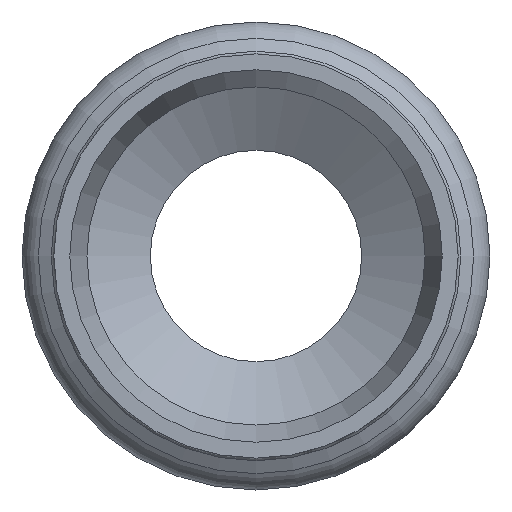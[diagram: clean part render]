
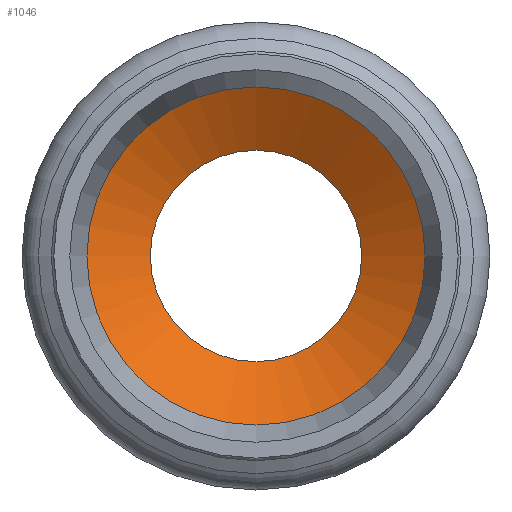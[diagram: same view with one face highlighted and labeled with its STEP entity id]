
A CAD part, left-side view. The second image highlights one B-rep face of the part: STEP entity #1046.
In plain terms, the highlighted free-form (B-spline) face has degree [1, 2] with [2, 9] control points.
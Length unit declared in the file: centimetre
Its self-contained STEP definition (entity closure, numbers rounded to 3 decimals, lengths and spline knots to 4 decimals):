
#773=CARTESIAN_POINT('',(-10.0,0.,-18.5359));
#774=VERTEX_POINT('',#773);
#775=CARTESIAN_POINT('',(0.0,0.0,-18.5359));
#776=DIRECTION('',(0.0,0.0,1.0));
#777=DIRECTION('',(1.0,0.0,0.0));
#778=AXIS2_PLACEMENT_3D('',#775,#776,#777);
#779=CIRCLE('',#778,10.0);
#780=EDGE_CURVE('',#774,#774,#779,.T.);
#1006=CARTESIAN_POINT('',(16.,0.,-22.0));
#1007=CARTESIAN_POINT('',(10.,0.,-18.5359));
#1008=CARTESIAN_POINT('',(16.,-16.,-22.0));
#1009=CARTESIAN_POINT('',(10.,-10.,-18.5359));
#1010=CARTESIAN_POINT('',(0.,-16.,-22.0));
#1011=CARTESIAN_POINT('',(0.,-10.,-18.5359));
#1012=CARTESIAN_POINT('',(-16.,-16.,-22.0));
#1013=CARTESIAN_POINT('',(-10.,-10.,-18.5359));
#1014=CARTESIAN_POINT('',(-16.,0.,-22.0));
#1015=CARTESIAN_POINT('',(-10.,0.,-18.5359));
#1016=CARTESIAN_POINT('',(-16.,16.,-22.0));
#1017=CARTESIAN_POINT('',(-10.,10.,-18.5359));
#1018=CARTESIAN_POINT('',(0.,16.,-22.0));
#1019=CARTESIAN_POINT('',(0.,10.,-18.5359));
#1020=CARTESIAN_POINT('',(16.,16.,-22.0));
#1021=CARTESIAN_POINT('',(10.,10.,-18.5359));
#1022=CARTESIAN_POINT('',(16.,0.,-22.0));
#1023=CARTESIAN_POINT('',(10.,0.,-18.5359));
#1031=(BOUNDED_SURFACE()B_SPLINE_SURFACE(1,2,((#1006,#1008,#1010,#1012,#1014,#1016,#1018,#1020,#1022),(#1007,#1009,#1011,#1013,#1015,#1017,#1019,#1021,#1023)),.UNSPECIFIED.,.F.,.T.,.U.)B_SPLINE_SURFACE_WITH_KNOTS((2,2),(3,2,2,2,3),(-1.1547,-0.2887),(0.0,12.5664,25.1327,37.6991,50.2655),.UNSPECIFIED.)GEOMETRIC_REPRESENTATION_ITEM()RATIONAL_B_SPLINE_SURFACE(((1.0,0.707,1.0,0.707,1.0,0.707,1.0,0.707,1.0),(1.0,0.707,1.0,0.707,1.0,0.707,1.0,0.707,1.0)))REPRESENTATION_ITEM('')SURFACE());
#1032=ORIENTED_EDGE('',*,*,#780,.T.);
#1033=EDGE_LOOP('',(#1032));
#1034=FACE_OUTER_BOUND('',#1033,.T.);
#1035=CARTESIAN_POINT('',(-16.0,0.0,-22.0));
#1036=VERTEX_POINT('',#1035);
#1037=CARTESIAN_POINT('',(0.0,0.0,-22.0));
#1038=DIRECTION('',(0.0,0.0,-1.0));
#1039=DIRECTION('',(-1.0,0.0,0.0));
#1040=AXIS2_PLACEMENT_3D('',#1037,#1038,#1039);
#1041=CIRCLE('',#1040,16.0);
#1042=EDGE_CURVE('',#1036,#1036,#1041,.T.);
#1043=ORIENTED_EDGE('',*,*,#1042,.T.);
#1044=EDGE_LOOP('',(#1043));
#1045=FACE_BOUND('',#1044,.T.);
#1046=ADVANCED_FACE('',(#1034,#1045),#1031,.F.);
